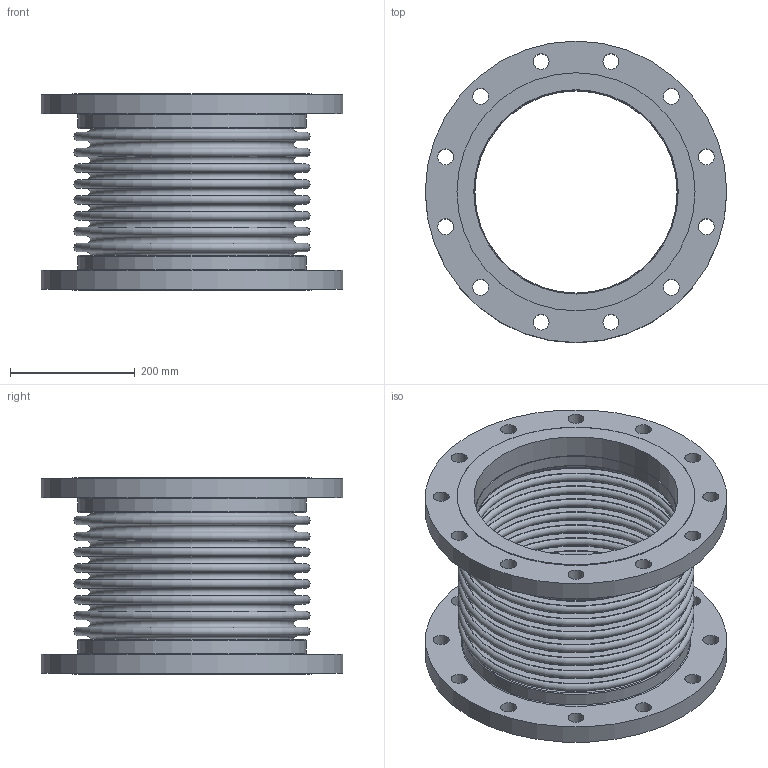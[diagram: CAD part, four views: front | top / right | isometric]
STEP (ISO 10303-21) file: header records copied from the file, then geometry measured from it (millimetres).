
FILE_DESCRIPTION(/* description */ ('EXPANSION JOINT,SINGLE, FLANGED ENDS,12 INCH NOMINAL','CAx-IF Rec.Pracs.---Representation and Presentation of Product Manufacturing Information (PMI)---4.0---2014-10-13'),/* implementation_level */ '2;1');
FILE_NAME(/* name */ 'US-12-8-85S-FLANGED ENDS.stp',/* time_stamp */ '2026-07-31T18:02:34-05:00',/* author */ ('Guadalupe'),/* organization */ (''),/* preprocessor_version */ 'ST-DEVELOPER v20.1',/* originating_system */ 'Autodesk Inventor 2026',/* authorisation */ '');
FILE_SCHEMA (('AP242_MANAGED_MODEL_BASED_3D_ENGINEERING_MIM_LF { 1 0 10303 442 2 1 4 }'));
Length unit declared in the file: inch
Products named in the file (3): 12-85S; 12-85S-02; 12-85S-01
Assembly tree (3 placements, depth 2):
  12-85S
    12-85S-02  x2
    12-85S-01
Bounding box: 482.6 x 482.6 x 313.94 mm (x, y, z)
Volume: 7251827.4 mm3; surface area: 1947959.3 mm2
Topology: 5 solids, 5 shells, 120 faces, 222 edges, 148 vertices
Faces by surface type: plane 46, torus 38, cylinder 36
Full cylindrical faces by diameter (mm): 25.4 x24, 323.85 x2, 325.679 x2, 327.152 x2, 365.252 x2, 381 x2, 482.6 x2
Entity records: 2714 total; most frequent: DIRECTION 550, CARTESIAN_POINT 401, ORIENTED_EDGE 336, AXIS2_PLACEMENT_3D 265, EDGE_CURVE 168, EDGE_LOOP 164, CIRCLE 148, VERTEX_POINT 112
